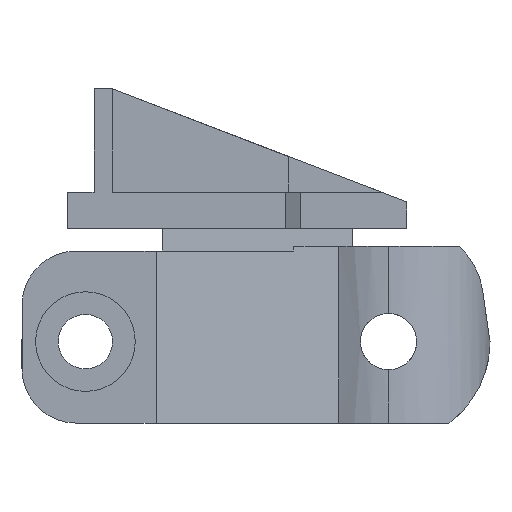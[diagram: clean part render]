
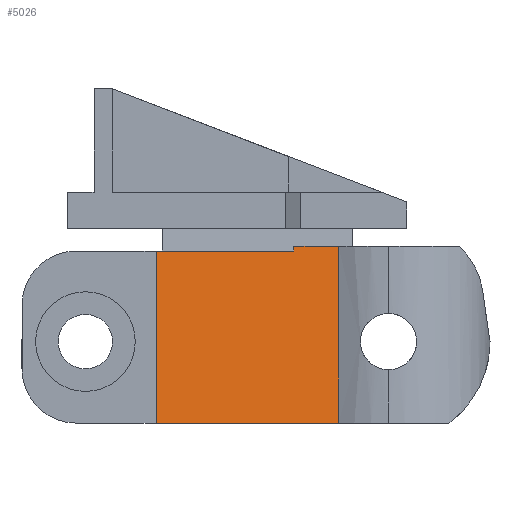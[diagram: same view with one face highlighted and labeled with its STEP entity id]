
A CAD part, left-side view. The second image highlights one B-rep face of the part: STEP entity #5026.
In plain terms, the highlighted planar face has unit normal (-0.967, -0.255, 0).
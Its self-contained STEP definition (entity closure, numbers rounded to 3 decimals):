
#17 = CARTESIAN_POINT ( 'NONE',  ( -51.25, 11.562, 17. ) ) ;
#92 = CARTESIAN_POINT ( 'NONE',  ( -51.25, 11.562, 36.5 ) ) ;
#280 = EDGE_CURVE ( 'NONE', #5459, #2960, #874, .T. ) ;
#541 = EDGE_CURVE ( 'NONE', #2790, #2828, #2813, .T. ) ;
#628 = VERTEX_POINT ( 'NONE', #1221 ) ;
#633 = LINE ( 'NONE', #4338, #3617 ) ;
#814 = CARTESIAN_POINT ( 'NONE',  ( -51.25, 11.562, 17. ) ) ;
#862 = CARTESIAN_POINT ( 'NONE',  ( -51.25, 11.562, 36.5 ) ) ;
#874 = LINE ( 'NONE', #2120, #1924 ) ;
#1105 = DIRECTION ( 'NONE',  ( -0.967, -0.255, 0. ) ) ;
#1184 = DIRECTION ( 'NONE',  ( 0., 0., 1. ) ) ;
#1221 = CARTESIAN_POINT ( 'NONE',  ( -52.555, 16.5, 36. ) ) ;
#1229 = ORIENTED_EDGE ( 'NONE', *, *, #541, .T. ) ;
#1270 = ORIENTED_EDGE ( 'NONE', *, *, #5203, .F. ) ;
#1304 = VERTEX_POINT ( 'NONE', #3150 ) ;
#1555 = DIRECTION ( 'NONE',  ( -0.255, 0.967, 0. ) ) ;
#1566 = DIRECTION ( 'NONE',  ( 0., 0., 1. ) ) ;
#1583 = EDGE_CURVE ( 'NONE', #1304, #628, #5395, .T. ) ;
#1605 = EDGE_LOOP ( 'NONE', ( #5370, #3044, #1270, #1229, #6031, #3177 ) ) ;
#1924 = VECTOR ( 'NONE', #1184, 1000. ) ;
#1957 = CARTESIAN_POINT ( 'NONE',  ( -56.57, 31.7, 17. ) ) ;
#1961 = CARTESIAN_POINT ( 'NONE',  ( -52.555, 16.5, 36.5 ) ) ;
#2120 = CARTESIAN_POINT ( 'NONE',  ( -56.57, 31.7, 36.5 ) ) ;
#2216 = VECTOR ( 'NONE', #1566, 1000. ) ;
#2353 = FACE_OUTER_BOUND ( 'NONE', #1605, .T. ) ;
#2431 = VECTOR ( 'NONE', #3277, 1000. ) ;
#2446 = DIRECTION ( 'NONE',  ( 0., 0., -1. ) ) ;
#2529 = DIRECTION ( 'NONE',  ( 0.255, -0.967, 0. ) ) ;
#2592 = EDGE_CURVE ( 'NONE', #2828, #1304, #3016, .T. ) ;
#2787 = DIRECTION ( 'NONE',  ( -0.255, 0.967, 0. ) ) ;
#2790 = VERTEX_POINT ( 'NONE', #17 ) ;
#2813 = LINE ( 'NONE', #3421, #2216 ) ;
#2828 = VERTEX_POINT ( 'NONE', #92 ) ;
#2840 = VECTOR ( 'NONE', #2446, 1000. ) ;
#2960 = VERTEX_POINT ( 'NONE', #5356 ) ;
#3016 = LINE ( 'NONE', #862, #4203 ) ;
#3044 = ORIENTED_EDGE ( 'NONE', *, *, #280, .F. ) ;
#3150 = CARTESIAN_POINT ( 'NONE',  ( -52.555, 16.5, 36.5 ) ) ;
#3177 = ORIENTED_EDGE ( 'NONE', *, *, #1583, .T. ) ;
#3277 = DIRECTION ( 'NONE',  ( -0.255, 0.967, 0. ) ) ;
#3421 = CARTESIAN_POINT ( 'NONE',  ( -51.25, 11.562, 36.5 ) ) ;
#3445 = PLANE ( 'NONE',  #5612 ) ;
#3491 = CARTESIAN_POINT ( 'NONE',  ( -56.57, 31.7, 36.5 ) ) ;
#3617 = VECTOR ( 'NONE', #1555, 1000. ) ;
#4203 = VECTOR ( 'NONE', #2787, 1000. ) ;
#4338 = CARTESIAN_POINT ( 'NONE',  ( -52.555, 16.5, 36. ) ) ;
#4940 = LINE ( 'NONE', #814, #2431 ) ;
#5026 = ADVANCED_FACE ( 'NONE', ( #2353 ), #3445, .T. ) ;
#5203 = EDGE_CURVE ( 'NONE', #2790, #5459, #4940, .T. ) ;
#5356 = CARTESIAN_POINT ( 'NONE',  ( -56.57, 31.7, 36. ) ) ;
#5370 = ORIENTED_EDGE ( 'NONE', *, *, #5463, .T. ) ;
#5395 = LINE ( 'NONE', #1961, #2840 ) ;
#5459 = VERTEX_POINT ( 'NONE', #1957 ) ;
#5463 = EDGE_CURVE ( 'NONE', #628, #2960, #633, .T. ) ;
#5612 = AXIS2_PLACEMENT_3D ( 'NONE', #3491, #1105, #2529 ) ;
#6031 = ORIENTED_EDGE ( 'NONE', *, *, #2592, .T. ) ;
